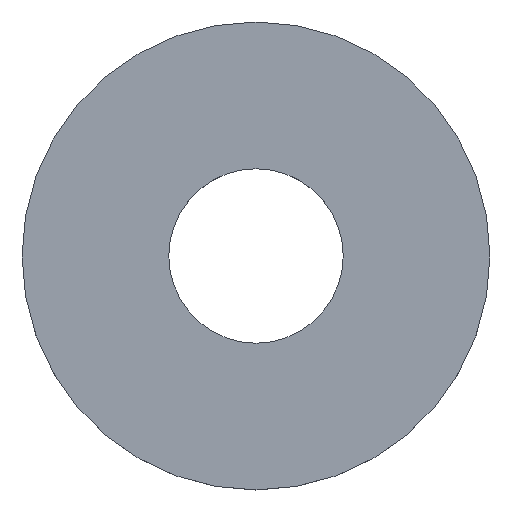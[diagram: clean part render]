
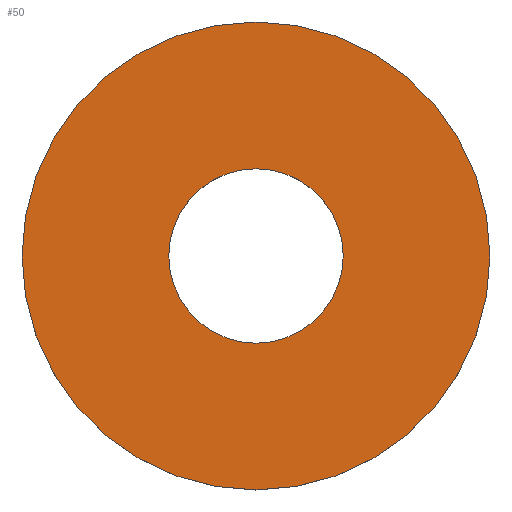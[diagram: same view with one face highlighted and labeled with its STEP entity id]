
A CAD part, top view. The second image highlights one B-rep face of the part: STEP entity #50.
In plain terms, the highlighted planar face has unit normal (0, 0, 1).
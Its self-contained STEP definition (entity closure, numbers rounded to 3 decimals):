
#21 = EDGE_CURVE('',#22,#22,#24,.T.);
#22 = VERTEX_POINT('',#23);
#23 = CARTESIAN_POINT('',(33.,16.5,2.2));
#24 = CIRCLE('',#25,16.5);
#25 = AXIS2_PLACEMENT_3D('',#26,#27,#28);
#26 = CARTESIAN_POINT('',(16.5,16.5,2.2));
#27 = DIRECTION('',(0.,0.,1.));
#28 = DIRECTION('',(1.,0.,-0.));
#50 = ADVANCED_FACE('',(#51,#54),#65,.T.);
#51 = FACE_BOUND('',#52,.T.);
#52 = EDGE_LOOP('',(#53));
#53 = ORIENTED_EDGE('',*,*,#21,.T.);
#54 = FACE_BOUND('',#55,.T.);
#55 = EDGE_LOOP('',(#56));
#56 = ORIENTED_EDGE('',*,*,#57,.F.);
#57 = EDGE_CURVE('',#58,#58,#60,.T.);
#58 = VERTEX_POINT('',#59);
#59 = CARTESIAN_POINT('',(22.65,16.5,2.2));
#60 = CIRCLE('',#61,6.15);
#61 = AXIS2_PLACEMENT_3D('',#62,#63,#64);
#62 = CARTESIAN_POINT('',(16.5,16.5,2.2));
#63 = DIRECTION('',(0.,0.,1.));
#64 = DIRECTION('',(1.,0.,-0.));
#65 = PLANE('',#66);
#66 = AXIS2_PLACEMENT_3D('',#67,#68,#69);
#67 = CARTESIAN_POINT('',(16.5,16.5,2.2));
#68 = DIRECTION('',(0.,0.,1.));
#69 = DIRECTION('',(1.,0.,-0.));
